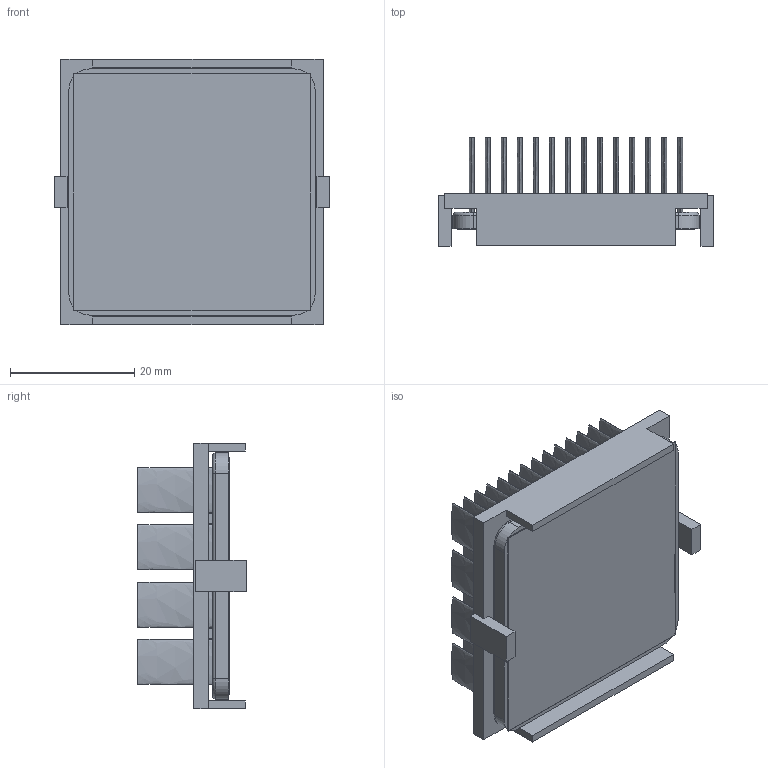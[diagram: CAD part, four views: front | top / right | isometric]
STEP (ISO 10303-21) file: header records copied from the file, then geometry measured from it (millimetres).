
FILE_DESCRIPTION (( 'STEP AP214' ), '1' );
FILE_NAME ('INM40001-15W-2.6K30.STEP', '2023-02-21T17:37:23', ( '' ), ( '' ), 'SwSTEP 2.0', 'SolidWorks 2020', '' );
FILE_SCHEMA (( 'AUTOMOTIVE_DESIGN' ));
Length unit declared in the file: inch
Products named in the file (1): INM40001-15W-2.6K30
Bounding box: 44.2 x 17.4 x 42.7 mm (x, y, z)
Volume: 9267.5 mm3; surface area: 19264.9 mm2
Topology: 3 solids, 3 shells, 246 faces, 544 edges, 360 vertices
Faces by surface type: plane 122, bspline 112, cylinder 8, torus 4
Entity records: 10244 total; most frequent: CARTESIAN_POINT 2607, ORIENTED_EDGE 1088, DIRECTION 610, EDGE_CURVE 544, VERTEX_POINT 360, EDGE_LOOP 304, VECTOR 300, LINE 300
